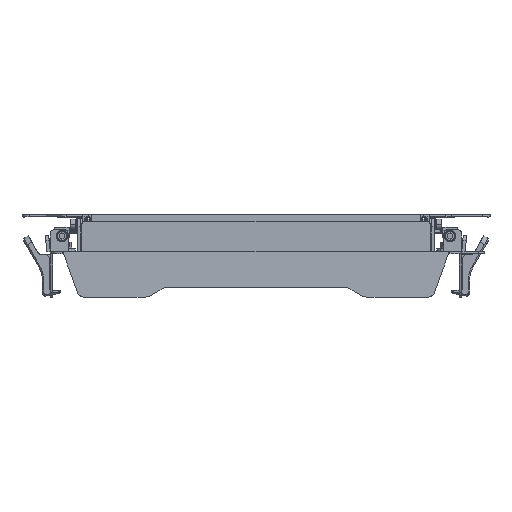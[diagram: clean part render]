
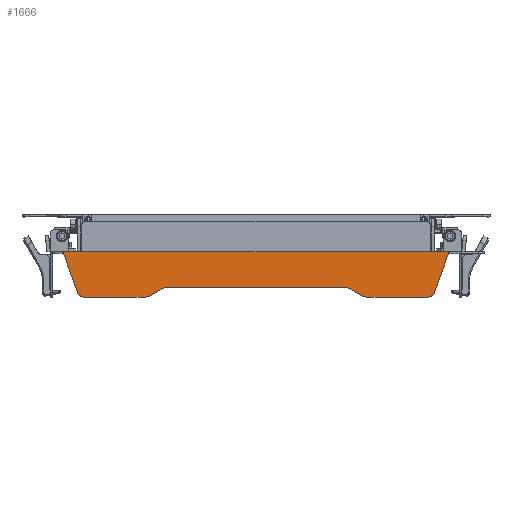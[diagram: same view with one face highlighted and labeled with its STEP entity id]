
A CAD part, front view. The second image highlights one B-rep face of the part: STEP entity #1666.
In plain terms, the highlighted planar face has unit normal (0, -1, 0.026).
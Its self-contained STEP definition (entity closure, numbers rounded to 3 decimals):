
#1666=ADVANCED_FACE('',(#3629),#30262,.T.);
#3629=FACE_OUTER_BOUND('',#5689,.T.);
#5689=EDGE_LOOP('',(#13141,#13142,#13143,#13144,#13145,#13146,#13147,#13148,
#13149,#13150,#13151,#13152,#13153,#13154,#13155,#13156));
#13141=ORIENTED_EDGE('',*,*,#19626,.F.);
#13142=ORIENTED_EDGE('',*,*,#19639,.T.);
#13143=ORIENTED_EDGE('',*,*,#19638,.T.);
#13144=ORIENTED_EDGE('',*,*,#19637,.T.);
#13145=ORIENTED_EDGE('',*,*,#19636,.T.);
#13146=ORIENTED_EDGE('',*,*,#19635,.T.);
#13147=ORIENTED_EDGE('',*,*,#19634,.T.);
#13148=ORIENTED_EDGE('',*,*,#19633,.T.);
#13149=ORIENTED_EDGE('',*,*,#19632,.T.);
#13150=ORIENTED_EDGE('',*,*,#19631,.T.);
#13151=ORIENTED_EDGE('',*,*,#19630,.T.);
#13152=ORIENTED_EDGE('',*,*,#19629,.T.);
#13153=ORIENTED_EDGE('',*,*,#19628,.T.);
#13154=ORIENTED_EDGE('',*,*,#19505,.T.);
#13155=ORIENTED_EDGE('',*,*,#19627,.T.);
#13156=ORIENTED_EDGE('',*,*,#19624,.T.);
#19505=EDGE_CURVE('',#28109,#28110,#24941,.T.);
#19624=EDGE_CURVE('',#28266,#28265,#25054,.T.);
#19626=EDGE_CURVE('',#28267,#28265,#25056,.T.);
#19627=EDGE_CURVE('',#28110,#28266,#25057,.T.);
#19628=EDGE_CURVE('',#28268,#28109,#25058,.T.);
#19629=EDGE_CURVE('',#28269,#28268,#25059,.T.);
#19630=EDGE_CURVE('',#28270,#28269,#25060,.T.);
#19631=EDGE_CURVE('',#28271,#28270,#25061,.T.);
#19632=EDGE_CURVE('',#28272,#28271,#25062,.T.);
#19633=EDGE_CURVE('',#28273,#28272,#25063,.T.);
#19634=EDGE_CURVE('',#28274,#28273,#25064,.T.);
#19635=EDGE_CURVE('',#28275,#28274,#25065,.T.);
#19636=EDGE_CURVE('',#28276,#28275,#25066,.T.);
#19637=EDGE_CURVE('',#28277,#28276,#25067,.T.);
#19638=EDGE_CURVE('',#28278,#28277,#25068,.T.);
#19639=EDGE_CURVE('',#28267,#28278,#25069,.T.);
#24941=B_SPLINE_CURVE_WITH_KNOTS('',1,(#73914,#73915),.UNSPECIFIED.,.F.,
 .F.,(2,2),(0.,266.5),.UNSPECIFIED.);
#25054=B_SPLINE_CURVE_WITH_KNOTS('',1,(#74172,#74173),.UNSPECIFIED.,.F.,
 .F.,(2,2),(0.,28.433),.UNSPECIFIED.);
#25056=B_SPLINE_CURVE_WITH_KNOTS('',3,(#74176,#74177,#74178,#74179,#74180),
 .UNSPECIFIED.,.F.,.F.,(4,1,4),(0.,3.136,6.272),
 .UNSPECIFIED.);
#25057=B_SPLINE_CURVE_WITH_KNOTS('',1,(#74181,#74182),.UNSPECIFIED.,.F.,
 .F.,(2,2),(-1.501,0.),.UNSPECIFIED.);
#25058=B_SPLINE_CURVE_WITH_KNOTS('',1,(#74183,#74184),.UNSPECIFIED.,.F.,
 .F.,(2,2),(-1.501,0.),.UNSPECIFIED.);
#25059=B_SPLINE_CURVE_WITH_KNOTS('',1,(#74185,#74186),.UNSPECIFIED.,.F.,
 .F.,(2,2),(-28.433,0.),.UNSPECIFIED.);
#25060=B_SPLINE_CURVE_WITH_KNOTS('',3,(#74187,#74188,#74189,#74190,#74191),
 .UNSPECIFIED.,.F.,.F.,(4,1,4),(-6.272,-3.136,0.),
 .UNSPECIFIED.);
#25061=B_SPLINE_CURVE_WITH_KNOTS('',1,(#74192,#74193),.UNSPECIFIED.,.F.,
 .F.,(2,2),(-41.35,0.),.UNSPECIFIED.);
#25062=B_SPLINE_CURVE_WITH_KNOTS('',3,(#74194,#74195,#74196,#74197),
 .UNSPECIFIED.,.F.,.F.,(4,4),(-5.298,0.),.UNSPECIFIED.);
#25063=B_SPLINE_CURVE_WITH_KNOTS('',1,(#74198,#74199),.UNSPECIFIED.,.F.,
 .F.,(2,2),(-8.642,0.),.UNSPECIFIED.);
#25064=B_SPLINE_CURVE_WITH_KNOTS('',3,(#74200,#74201,#74202,#74203),
 .UNSPECIFIED.,.F.,.F.,(4,4),(-5.298,0.),.UNSPECIFIED.);
#25065=B_SPLINE_CURVE_WITH_KNOTS('',1,(#74204,#74205),.UNSPECIFIED.,.F.,
 .F.,(2,2),(-119.992,0.),.UNSPECIFIED.);
#25066=B_SPLINE_CURVE_WITH_KNOTS('',3,(#74206,#74207,#74208,#74209),
 .UNSPECIFIED.,.F.,.F.,(4,4),(-5.298,0.),.UNSPECIFIED.);
#25067=B_SPLINE_CURVE_WITH_KNOTS('',1,(#74210,#74211),.UNSPECIFIED.,.F.,
 .F.,(2,2),(-8.642,0.),.UNSPECIFIED.);
#25068=B_SPLINE_CURVE_WITH_KNOTS('',3,(#74212,#74213,#74214,#74215),
 .UNSPECIFIED.,.F.,.F.,(4,4),(-5.298,0.),.UNSPECIFIED.);
#25069=B_SPLINE_CURVE_WITH_KNOTS('',1,(#74216,#74217),.UNSPECIFIED.,.F.,
 .F.,(2,2),(-41.35,0.),.UNSPECIFIED.);
#28109=VERTEX_POINT('',#73484);
#28110=VERTEX_POINT('',#73485);
#28265=VERTEX_POINT('',#73640);
#28266=VERTEX_POINT('',#73641);
#28267=VERTEX_POINT('',#73642);
#28268=VERTEX_POINT('',#73643);
#28269=VERTEX_POINT('',#73644);
#28270=VERTEX_POINT('',#73645);
#28271=VERTEX_POINT('',#73646);
#28272=VERTEX_POINT('',#73647);
#28273=VERTEX_POINT('',#73648);
#28274=VERTEX_POINT('',#73649);
#28275=VERTEX_POINT('',#73650);
#28276=VERTEX_POINT('',#73651);
#28277=VERTEX_POINT('',#73652);
#28278=VERTEX_POINT('',#73653);
#30262=PLANE('',#32067);
#32067=AXIS2_PLACEMENT_3D('',#73260,#33474,$);
#33474=DIRECTION('',(0.,-1.,0.026));
#73260=CARTESIAN_POINT('',(339.688,-85.39,34.222));
#73484=CARTESIAN_POINT('',(633.25,-85.484,30.65));
#73485=CARTESIAN_POINT('',(366.75,-85.484,30.65));
#73640=CARTESIAN_POINT('',(376.472,-86.223,2.44));
#73641=CARTESIAN_POINT('',(366.75,-85.523,29.15));
#73642=CARTESIAN_POINT('',(381.17,-86.309,-0.85));
#73643=CARTESIAN_POINT('',(633.25,-85.523,29.15));
#73644=CARTESIAN_POINT('',(623.528,-86.223,2.44));
#73645=CARTESIAN_POINT('',(618.83,-86.309,-0.85));
#73646=CARTESIAN_POINT('',(577.479,-86.309,-0.85));
#73647=CARTESIAN_POINT('',(572.479,-86.274,0.49));
#73648=CARTESIAN_POINT('',(564.996,-86.16,4.81));
#73649=CARTESIAN_POINT('',(559.996,-86.125,6.15));
#73650=CARTESIAN_POINT('',(440.004,-86.125,6.15));
#73651=CARTESIAN_POINT('',(435.004,-86.16,4.81));
#73652=CARTESIAN_POINT('',(427.521,-86.274,0.49));
#73653=CARTESIAN_POINT('',(422.521,-86.309,-0.85));
#73914=CARTESIAN_POINT('',(633.25,-85.484,30.65));
#73915=CARTESIAN_POINT('',(366.75,-85.484,30.65));
#74172=CARTESIAN_POINT('',(366.75,-85.523,29.15));
#74173=CARTESIAN_POINT('',(376.472,-86.223,2.44));
#74176=CARTESIAN_POINT('',(381.17,-86.309,-0.85));
#74177=CARTESIAN_POINT('',(380.003,-86.309,-0.85));
#74178=CARTESIAN_POINT('',(378.167,-86.29,-0.138));
#74179=CARTESIAN_POINT('',(376.871,-86.251,1.343));
#74180=CARTESIAN_POINT('',(376.472,-86.223,2.44));
#74181=CARTESIAN_POINT('',(366.75,-85.484,30.65));
#74182=CARTESIAN_POINT('',(366.75,-85.523,29.15));
#74183=CARTESIAN_POINT('',(633.25,-85.523,29.15));
#74184=CARTESIAN_POINT('',(633.25,-85.484,30.65));
#74185=CARTESIAN_POINT('',(623.528,-86.223,2.44));
#74186=CARTESIAN_POINT('',(633.25,-85.523,29.15));
#74187=CARTESIAN_POINT('',(618.83,-86.309,-0.85));
#74188=CARTESIAN_POINT('',(619.997,-86.309,-0.85));
#74189=CARTESIAN_POINT('',(621.833,-86.29,-0.138));
#74190=CARTESIAN_POINT('',(623.129,-86.251,1.343));
#74191=CARTESIAN_POINT('',(623.528,-86.223,2.44));
#74192=CARTESIAN_POINT('',(577.479,-86.309,-0.85));
#74193=CARTESIAN_POINT('',(618.83,-86.309,-0.85));
#74194=CARTESIAN_POINT('',(572.479,-86.274,0.49));
#74195=CARTESIAN_POINT('',(574.026,-86.297,-0.403));
#74196=CARTESIAN_POINT('',(575.693,-86.309,-0.85));
#74197=CARTESIAN_POINT('',(577.479,-86.309,-0.85));
#74198=CARTESIAN_POINT('',(564.996,-86.16,4.81));
#74199=CARTESIAN_POINT('',(572.479,-86.274,0.49));
#74200=CARTESIAN_POINT('',(559.996,-86.125,6.15));
#74201=CARTESIAN_POINT('',(561.783,-86.125,6.15));
#74202=CARTESIAN_POINT('',(563.449,-86.137,5.703));
#74203=CARTESIAN_POINT('',(564.996,-86.16,4.81));
#74204=CARTESIAN_POINT('',(440.004,-86.125,6.15));
#74205=CARTESIAN_POINT('',(559.996,-86.125,6.15));
#74206=CARTESIAN_POINT('',(435.004,-86.16,4.81));
#74207=CARTESIAN_POINT('',(436.551,-86.137,5.703));
#74208=CARTESIAN_POINT('',(438.217,-86.125,6.15));
#74209=CARTESIAN_POINT('',(440.004,-86.125,6.15));
#74210=CARTESIAN_POINT('',(427.521,-86.274,0.49));
#74211=CARTESIAN_POINT('',(435.004,-86.16,4.81));
#74212=CARTESIAN_POINT('',(422.521,-86.309,-0.85));
#74213=CARTESIAN_POINT('',(424.307,-86.309,-0.85));
#74214=CARTESIAN_POINT('',(425.974,-86.297,-0.403));
#74215=CARTESIAN_POINT('',(427.521,-86.274,0.49));
#74216=CARTESIAN_POINT('',(381.17,-86.309,-0.85));
#74217=CARTESIAN_POINT('',(422.521,-86.309,-0.85));
